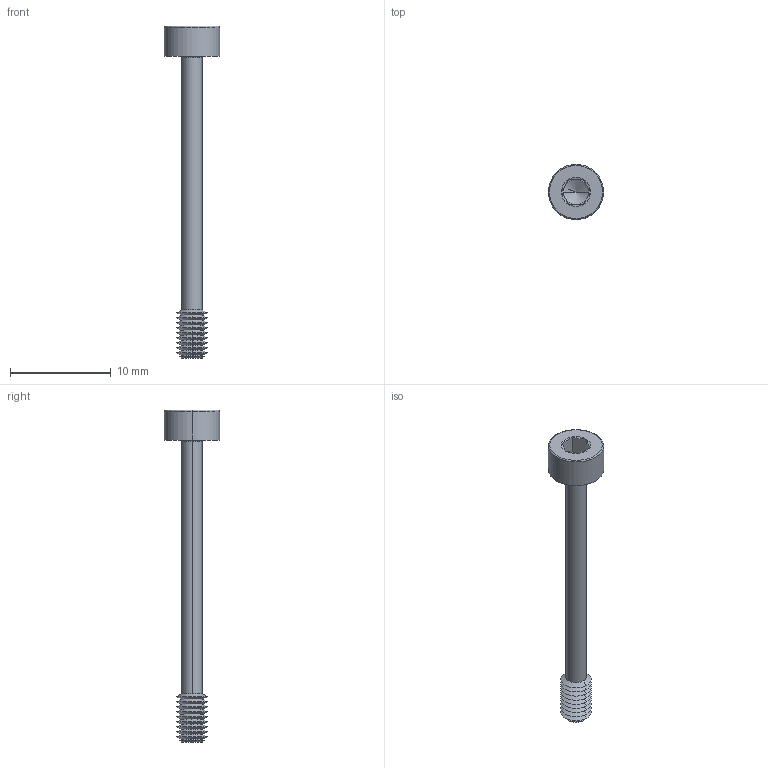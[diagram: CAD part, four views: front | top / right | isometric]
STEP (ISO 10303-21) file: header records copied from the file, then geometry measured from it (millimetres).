
FILE_DESCRIPTION (( 'STEP AP203' ), '1' );
FILE_NAME ('P0154.030-030-BL.step', '2024-06-17T11:23:37', ( '' ), ( '' ), 'SwSTEP 2.0', 'SolidWorks 2019', '' );
FILE_SCHEMA (( 'CONFIG_CONTROL_DESIGN' ));
Length unit declared in the file: millimetre
Products named in the file (1): P0154.030-030-BL
Bounding box: 5.5 x 5.5 x 33 mm (x, y, z)
Volume: 160.4 mm3; surface area: 355.2 mm2
Topology: 1 solids, 1 shells, 71 faces, 144 edges, 75 vertices
Faces by surface type: cone 48, plane 15, torus 4, cylinder 4
Entity records: 1887 total; most frequent: DIRECTION 352, CARTESIAN_POINT 315, ORIENTED_EDGE 284, AXIS2_PLACEMENT_3D 144, EDGE_CURVE 142, VERTEX_POINT 75, EDGE_LOOP 73, CIRCLE 72
